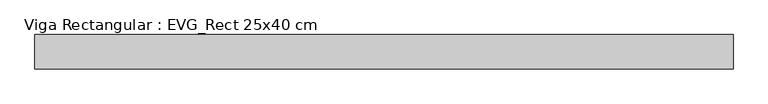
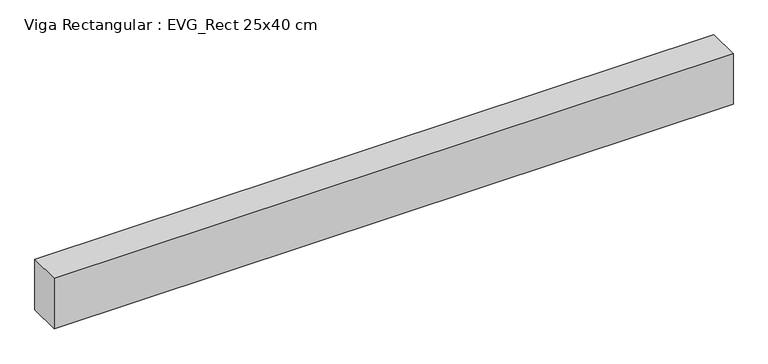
"""IFC4 building model written with IfcOpenShell, lengths in millimetres: beam geometry, Viga Rectangular : EVG_Rect 25x40 cm."""

import ifcopenshell
import ifcopenshell.guid

model = None  # the IFC model being written
_history = None  # IfcOwnerHistory: only IFC2X3 demands one
_inside = {}  # id of a spatial element -> (the spatial element, [elements in it])
_under = {}  # id of a project, library or spatial element -> (it, [spatial elements below it])
_declared = {}  # id of a project -> (the project, [libraries it declares])
_typed = {}  # id of a type object -> (the type object, [elements of that type])
_made_of = {}  # id of a material, layer set ... -> (it, [elements and type objects made of it])


def new_model(schema):
    """Start an empty IFC model of exactly this schema.

    Asked for "IFC4X3", IfcOpenShell would pick the latest addendum, in which some entities
    have other attributes; the version numbers below select the first issue.
    IFC2X3 requires an IfcOwnerHistory on every rooted entity: one is made here for all.
    """
    global model, _history
    if schema == "IFC4X3":
        model = ifcopenshell.file(schema_version=(4, 3, 0, 0))
    else:
        model = ifcopenshell.file(schema=schema)
    _inside.clear()
    _under.clear()
    _declared.clear()
    _typed.clear()
    _made_of.clear()
    _history = None
    if model.schema == "IFC2X3":
        org = make("IfcOrganization", Name="unknown")
        user = make(
            "IfcPersonAndOrganization",
            ThePerson=make("IfcPerson", FamilyName="unknown"),
            TheOrganization=org,
        )
        app = make(
            "IfcApplication",
            ApplicationDeveloper=org,
            Version="unknown",
            ApplicationFullName="unknown",
            ApplicationIdentifier="unknown",
        )
        _history = make(
            "IfcOwnerHistory",
            OwningUser=user,
            OwningApplication=app,
            ChangeAction="ADDED",
            CreationDate=0,
        )
    return model


def make(cls, **values):
    """One entity of the class cls with the attributes given. An attribute that is None is left unset."""
    return model.create_entity(
        cls, **{name: value for name, value in values.items() if value is not None}
    )


def rooted(cls, **values):
    """An entity with a GlobalId (a new one), such as an element, a storey or a relation."""
    return make(cls, GlobalId=ifcopenshell.guid.new(), OwnerHistory=_history, **values)


def si_unit(unit_type, name, prefix=None):
    """IfcSIUnit, for example si_unit("LENGTHUNIT", "METRE", prefix="MILLI")."""
    return make("IfcSIUnit", UnitType=unit_type, Prefix=prefix, Name=name)


def assignment(units):
    """IfcUnitAssignment: the units of a project."""
    return None if units is None else make("IfcUnitAssignment", Units=units)


def point(xyz):
    """IfcCartesianPoint."""
    return None if xyz is None else make("IfcCartesianPoint", Coordinates=xyz)


def direction(xyz):
    """IfcDirection."""
    return None if xyz is None else make("IfcDirection", DirectionRatios=xyz)


def frame(location, z_axis=None, x_axis=None):
    """IfcAxis2Placement3D, a coordinate frame: its origin and axes. An axis left out is left unset."""
    return make(
        "IfcAxis2Placement3D",
        Location=point(location),
        Axis=direction(z_axis),
        RefDirection=direction(x_axis),
    )


def origin():
    """The frame at (0, 0, 0) with its axes left unset."""
    return frame((0.0, 0.0, 0.0))


def place(relative_to, where):
    """IfcLocalPlacement: puts the frame where relative to a parent placement (None: the world)."""
    return make(
        "IfcLocalPlacement", PlacementRelTo=relative_to, RelativePlacement=where
    )


def context(
    kind, dimensions, precision=None, world=None, true_north=None, identifier=None
):
    """IfcGeometricRepresentationContext, for example the 3D "Model" context."""
    return make(
        "IfcGeometricRepresentationContext",
        ContextIdentifier=identifier,
        ContextType=kind,
        CoordinateSpaceDimension=dimensions,
        Precision=precision,
        WorldCoordinateSystem=world,
        TrueNorth=true_north,
    )


def project(units=None, contexts=None):
    """IfcProject with its units and contexts."""
    return rooted(
        "IfcProject",
        Name="project",
        RepresentationContexts=contexts,
        UnitsInContext=assignment(units),
    )


def spatial(cls, under=None, at=None, **own):
    """A site, building, storey or space (cls), placed at a placement, below another one or the project."""
    s = rooted(cls, ObjectPlacement=at, **own)
    if under is not None:
        _under.setdefault(under.id(), (under, []))[1].append(s)
    return s


def polyline(points):
    """IfcPolyline through the points."""
    return make("IfcPolyline", Points=[point(p) for p in points])


def outline(outer, holes=None, kind="AREA"):
    """IfcArbitraryClosedProfileDef: a profile drawn as a closed curve; with holes, ...WithVoids."""
    if holes is None:
        return make("IfcArbitraryClosedProfileDef", ProfileType=kind, OuterCurve=outer)
    return make(
        "IfcArbitraryProfileDefWithVoids",
        ProfileType=kind,
        OuterCurve=outer,
        InnerCurves=holes,
    )


def extrude(swept, where, along, depth):
    """IfcExtrudedAreaSolid: the profile swept, set in the frame where, extruded along a direction by depth."""
    return make(
        "IfcExtrudedAreaSolid",
        SweptArea=swept,
        Position=where,
        ExtrudedDirection=direction(along),
        Depth=depth,
    )


def shape(context_of_items, identifier, shape_type, items):
    """IfcShapeRepresentation: the items that make up one representation, for example the "Body"."""
    return make(
        "IfcShapeRepresentation",
        ContextOfItems=context_of_items,
        RepresentationIdentifier=identifier,
        RepresentationType=shape_type,
        Items=items,
    )


def source(mapping_origin, context_of_items, identifier, shape_type, items):
    """IfcRepresentationMap: a shape defined once, which mapped items show again and again."""
    return make(
        "IfcRepresentationMap",
        MappingOrigin=mapping_origin,
        MappedRepresentation=shape(context_of_items, identifier, shape_type, items),
    )


def transform(
    local_origin,
    x_axis=None,
    y_axis=None,
    z_axis=None,
    scale=None,
    scale2=None,
    scale3=None,
    uniform=True,
):
    """IfcCartesianTransformationOperator3D, or its non-uniform kind. x_axis, y_axis, z_axis: its Axis1, 2, 3."""
    if uniform:
        return make(
            "IfcCartesianTransformationOperator3D",
            Axis1=direction(x_axis),
            Axis2=direction(y_axis),
            LocalOrigin=point(local_origin),
            Scale=scale,
            Axis3=direction(z_axis),
        )
    return make(
        "IfcCartesianTransformationOperator3DnonUniform",
        Axis1=direction(x_axis),
        Axis2=direction(y_axis),
        LocalOrigin=point(local_origin),
        Scale=scale,
        Axis3=direction(z_axis),
        Scale2=scale2,
        Scale3=scale3,
    )


def mapped(mapping_source, mapping_target):
    """IfcMappedItem: shows the shape of a source again, moved by a transform."""
    return make(
        "IfcMappedItem", MappingSource=mapping_source, MappingTarget=mapping_target
    )


def made_of(thing, what):
    """Note that an element or type object is made of a material, layer set ...; save() writes the relation."""
    if what is not None:
        _made_of.setdefault(what.id(), (what, []))[1].append(thing)
    return thing


def element(
    cls,
    number,
    at=None,
    inside=None,
    cuts=None,
    type_object=None,
    material=None,
    context=None,
    identifier="Body",
    shape_type=None,
    held_by="IfcProductDefinitionShape",
    body=None,
    shapes=None,
    **own,
):
    """One element of the class cls, such as IfcWall. Its Tag is "e" and its number.

    at: its placement. inside: the storey or other place that contains it. cuts: it is an
    opening in that element (IfcRelVoidsElement). A single representation is given by context,
    identifier, shape_type and body (its items); several are given by shapes. held_by: the class
    of the entity that holds the representations. save() writes the other relations.
    """
    e = rooted(cls, Tag="e%d" % number, ObjectPlacement=at, **own)
    if body is not None:
        shapes = [shape(context, identifier, shape_type, body)]
    if shapes is not None:
        e.Representation = make(held_by, Representations=shapes)
    if inside is not None:
        _inside.setdefault(inside.id(), (inside, []))[1].append(e)
    if cuts is not None:
        rooted(
            "IfcRelVoidsElement", RelatingBuildingElement=cuts, RelatedOpeningElement=e
        )
    if type_object is not None:
        _typed.setdefault(type_object.id(), (type_object, []))[1].append(e)
    return made_of(e, material)


def aggregate(whole, parts):
    """IfcRelAggregates: a whole, such as a stair, and the parts it consists of."""
    return rooted("IfcRelAggregates", RelatingObject=whole, RelatedObjects=parts)


def save(model, path):
    """Write the relations noted so far, then the file.

    IfcRelAggregates (storeys below a building ...), IfcRelContainedInSpatialStructure (elements
    in a storey), IfcRelDefinesByType, IfcRelAssociatesMaterial and IfcRelDeclares: one each for
    every whole, place, type object, material and project.
    """
    for whole, parts in _under.values():
        aggregate(whole, parts)
    for where, things in _inside.values():
        rooted(
            "IfcRelContainedInSpatialStructure",
            RelatedElements=things,
            RelatingStructure=where,
        )
    for kind, things in _typed.values():
        rooted("IfcRelDefinesByType", RelatedObjects=things, RelatingType=kind)
    for what, things in _made_of.values():
        rooted("IfcRelAssociatesMaterial", RelatedObjects=things, RelatingMaterial=what)
    for by, libraries in _declared.values():
        rooted("IfcRelDeclares", RelatingContext=by, RelatedDefinitions=libraries)
    model.write(path)


def viga_rectangular_evg_rect_25x40_cm_b007f258(model_context):
    return source(origin(), model_context, "Body", "SweptSolid", [
        extrude(outline(polyline([(2558.7569045, 125.0), (2558.7569045, -125.0), (-2541.2430955, -125.0), (-2541.2430955, 125.0), (2558.7569045, 125.0)])), frame((0.0, 0.0, -400.0), z_axis=(0.0, 0.0, 1.0), x_axis=(1.0, 0.0, 0.0)), (0.0, 0.0, 1.0), 400.0),
    ])


if __name__ == "__main__":
    model = new_model("IFC4")
    model_context = context("Model", 3, world=origin())
    ifc_project = project(units=[si_unit("LENGTHUNIT", "METRE", prefix="MILLI")], contexts=[model_context])
    site = spatial("IfcSite", under=ifc_project)
    building = spatial("IfcBuilding", under=site)
    placement = place(None, origin())
    viga_rectangular_evg_rect_25x40_cm_shape = viga_rectangular_evg_rect_25x40_cm_b007f258(model_context)
    element("IfcBeam", 1, ObjectType="Viga Rectangular : EVG_Rect 25x40 cm", at=placement, inside=building, context=model_context, shape_type="MappedRepresentation", body=[
        mapped(viga_rectangular_evg_rect_25x40_cm_shape, transform((0.0, 0.0, 0.0), x_axis=(1.0, 0.0, 0.0), y_axis=(0.0, 1.0, 0.0), z_axis=(0.0, 0.0, 1.0))),
    ])
    save(model, "model.ifc")
